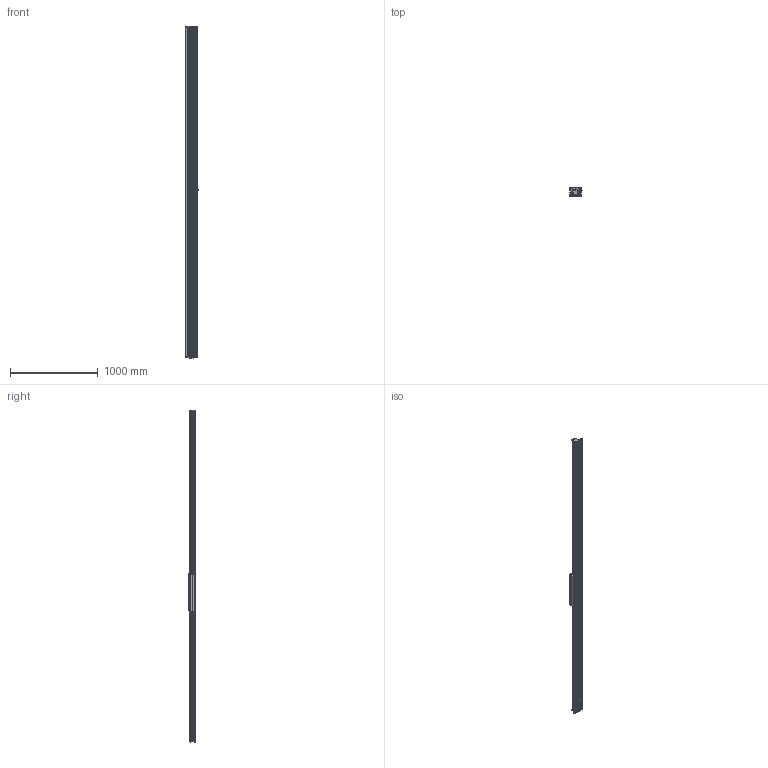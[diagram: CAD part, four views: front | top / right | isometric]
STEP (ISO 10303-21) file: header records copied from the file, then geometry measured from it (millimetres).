
FILE_DESCRIPTION (( 'STEP AP214' ), '1' );
FILE_NAME ('SINADRIVES Linear Motor Stage MLL20630XS-XX-1-0-ST-00-03780.STEP', '2015-07-07T08:16:01', ( 'Tecnico' ), ( '' ), 'SwSTEP 2.0', 'SolidWorks 2009', '' );
FILE_SCHEMA (( 'AUTOMOTIVE_DESIGN' ));
Length unit declared in the file: millimetre
Products named in the file (7): SINADRIVES CARRIAGE MLL20630XS-1; CARRIAGE MLL20630; Connector power+signal Y-tec 45; SINADRIVES PROFILE MLL2XXXX-3764; SINADRIVES ENDBLOCK MLL2; SINADRIVES ENDBLOCK MLL2-2; SINADRIVES Linear Motor Stage MLL20630XS-XX-1-0-ST-00-03780
Assembly tree (6 placements, depth 3):
  SINADRIVES Linear Motor Stage MLL20630XS-XX-1-0-ST-00-03780
    SINADRIVES ENDBLOCK MLL2-2
    SINADRIVES PROFILE MLL2XXXX-3764
    SINADRIVES ENDBLOCK MLL2
    SINADRIVES CARRIAGE MLL20630XS-1
      CARRIAGE MLL20630
      Connector power+signal Y-tec 45
Bounding box: 144.43 x 91 x 3788.8 mm (x, y, z)
Volume: 17411821.6 mm3; surface area: 2968682.1 mm2
Topology: 2 solids, 42 shells, 950 faces, 2640 edges, 1730 vertices
Faces by surface type: plane 445, cylinder 302, bspline 79, cone 70, torus 42, sphere 12
Entity records: 40587 total; most frequent: CARTESIAN_POINT 8656, ORIENTED_EDGE 5024, DIRECTION 4947, EDGE_CURVE 2622, AXIS2_PLACEMENT_3D 1781, VERTEX_POINT 1730, VECTOR 1385, LINE 1385
